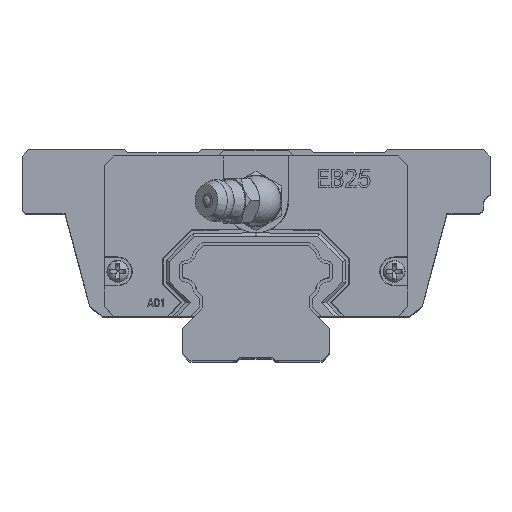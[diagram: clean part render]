
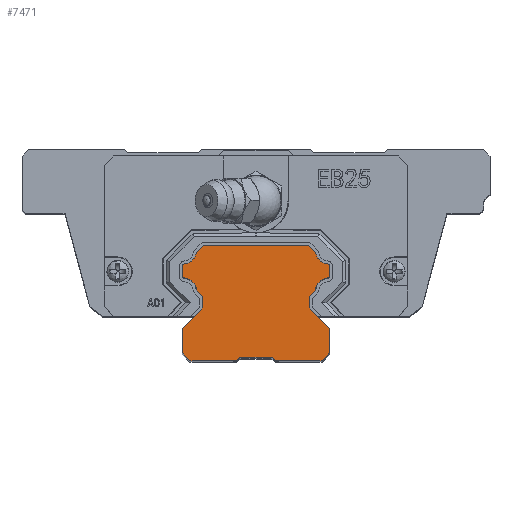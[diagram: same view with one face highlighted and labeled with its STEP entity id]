
A CAD part, top view. The second image highlights one B-rep face of the part: STEP entity #7471.
In plain terms, the highlighted planar face has unit normal (0, 0, 1).
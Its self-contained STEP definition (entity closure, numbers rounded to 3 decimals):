
#7045=CIRCLE('',#24233,2.);
#7047=CIRCLE('',#24236,0.5);
#7049=CIRCLE('',#24240,0.5);
#7051=CIRCLE('',#24243,2.);
#7059=CIRCLE('',#24255,2.);
#7061=CIRCLE('',#24258,0.5);
#7063=CIRCLE('',#24262,0.5);
#7065=CIRCLE('',#24265,2.);
#7471=ADVANCED_FACE('',(#8976),#8443,.T.);
#8443=PLANE('',#24272);
#8976=FACE_OUTER_BOUND('',#9883,.T.);
#9883=EDGE_LOOP('',(#11116,#11117,#11118,#11119,#11120,#11121,#11122,#11123,
#11124,#11125,#11126,#11127,#11128,#11129,#11130,#11131,#11132,#11133,#11134,
#11135,#11136,#11137,#11138,#11139,#11140,#11141,#11142,#11143));
#11116=ORIENTED_EDGE('',*,*,#18257,.F.);
#11117=ORIENTED_EDGE('',*,*,#18253,.F.);
#11118=ORIENTED_EDGE('',*,*,#18244,.T.);
#11119=ORIENTED_EDGE('',*,*,#18241,.F.);
#11120=ORIENTED_EDGE('',*,*,#18238,.F.);
#11121=ORIENTED_EDGE('',*,*,#18234,.F.);
#11122=ORIENTED_EDGE('',*,*,#18229,.T.);
#11123=ORIENTED_EDGE('',*,*,#18224,.F.);
#11124=ORIENTED_EDGE('',*,*,#18219,.F.);
#11125=ORIENTED_EDGE('',*,*,#18215,.F.);
#11126=ORIENTED_EDGE('',*,*,#18212,.T.);
#11127=ORIENTED_EDGE('',*,*,#18209,.F.);
#11128=ORIENTED_EDGE('',*,*,#18297,.T.);
#11129=ORIENTED_EDGE('',*,*,#18298,.F.);
#11130=ORIENTED_EDGE('',*,*,#18299,.T.);
#11131=ORIENTED_EDGE('',*,*,#18300,.F.);
#11132=ORIENTED_EDGE('',*,*,#18301,.T.);
#11133=ORIENTED_EDGE('',*,*,#18302,.F.);
#11134=ORIENTED_EDGE('',*,*,#18303,.T.);
#11135=ORIENTED_EDGE('',*,*,#18304,.F.);
#11136=ORIENTED_EDGE('',*,*,#18305,.T.);
#11137=ORIENTED_EDGE('',*,*,#18284,.F.);
#11138=ORIENTED_EDGE('',*,*,#18282,.T.);
#11139=ORIENTED_EDGE('',*,*,#18279,.F.);
#11140=ORIENTED_EDGE('',*,*,#18276,.F.);
#11141=ORIENTED_EDGE('',*,*,#18272,.F.);
#11142=ORIENTED_EDGE('',*,*,#18267,.T.);
#11143=ORIENTED_EDGE('',*,*,#18262,.F.);
#16410=VERTEX_POINT('',#29837);
#16411=VERTEX_POINT('',#29839);
#16413=VERTEX_POINT('',#29845);
#16415=VERTEX_POINT('',#29851);
#16418=VERTEX_POINT('',#29859);
#16422=VERTEX_POINT('',#29869);
#16426=VERTEX_POINT('',#29879);
#16430=VERTEX_POINT('',#29889);
#16433=VERTEX_POINT('',#29897);
#16435=VERTEX_POINT('',#29903);
#16437=VERTEX_POINT('',#29909);
#16445=VERTEX_POINT('',#29927);
#16448=VERTEX_POINT('',#29935);
#16452=VERTEX_POINT('',#29945);
#16456=VERTEX_POINT('',#29955);
#16460=VERTEX_POINT('',#29965);
#16463=VERTEX_POINT('',#29973);
#16465=VERTEX_POINT('',#29979);
#16467=VERTEX_POINT('',#29985);
#16468=VERTEX_POINT('',#29989);
#16478=VERTEX_POINT('',#30013);
#16479=VERTEX_POINT('',#30017);
#16480=VERTEX_POINT('',#30019);
#16481=VERTEX_POINT('',#30021);
#16482=VERTEX_POINT('',#30023);
#16483=VERTEX_POINT('',#30025);
#16484=VERTEX_POINT('',#30027);
#16485=VERTEX_POINT('',#30029);
#18209=EDGE_CURVE('',#16410,#16411,#20928,.T.);
#18212=EDGE_CURVE('',#16413,#16411,#20931,.T.);
#18215=EDGE_CURVE('',#16413,#16415,#20934,.T.);
#18219=EDGE_CURVE('',#16415,#16418,#7045,.T.);
#18224=EDGE_CURVE('',#16418,#16422,#7047,.T.);
#18229=EDGE_CURVE('',#16426,#16422,#20944,.T.);
#18234=EDGE_CURVE('',#16426,#16430,#7049,.T.);
#18238=EDGE_CURVE('',#16430,#16433,#7051,.T.);
#18241=EDGE_CURVE('',#16433,#16435,#20952,.T.);
#18244=EDGE_CURVE('',#16437,#16435,#20955,.T.);
#18253=EDGE_CURVE('',#16437,#16445,#20958,.T.);
#18257=EDGE_CURVE('',#16445,#16448,#7059,.T.);
#18262=EDGE_CURVE('',#16448,#16452,#7061,.T.);
#18267=EDGE_CURVE('',#16456,#16452,#20968,.T.);
#18272=EDGE_CURVE('',#16456,#16460,#7063,.T.);
#18276=EDGE_CURVE('',#16460,#16463,#7065,.T.);
#18279=EDGE_CURVE('',#16463,#16465,#20976,.T.);
#18282=EDGE_CURVE('',#16467,#16465,#20979,.T.);
#18284=EDGE_CURVE('',#16467,#16468,#20981,.T.);
#18297=EDGE_CURVE('',#16410,#16478,#20994,.T.);
#18298=EDGE_CURVE('',#16479,#16478,#20995,.T.);
#18299=EDGE_CURVE('',#16479,#16480,#20996,.T.);
#18300=EDGE_CURVE('',#16481,#16480,#20997,.T.);
#18301=EDGE_CURVE('',#16481,#16482,#20998,.T.);
#18302=EDGE_CURVE('',#16483,#16482,#20999,.T.);
#18303=EDGE_CURVE('',#16483,#16484,#21000,.T.);
#18304=EDGE_CURVE('',#16485,#16484,#21001,.T.);
#18305=EDGE_CURVE('',#16485,#16468,#21002,.T.);
#20928=LINE('',#29838,#22514);
#20931=LINE('',#29844,#22517);
#20934=LINE('',#29850,#22520);
#20944=LINE('',#29878,#22530);
#20952=LINE('',#29902,#22538);
#20955=LINE('',#29908,#22541);
#20958=LINE('',#29926,#22544);
#20968=LINE('',#29954,#22554);
#20976=LINE('',#29978,#22562);
#20979=LINE('',#29984,#22565);
#20981=LINE('',#29988,#22567);
#20994=LINE('',#30014,#22580);
#20995=LINE('',#30016,#22581);
#20996=LINE('',#30018,#22582);
#20997=LINE('',#30020,#22583);
#20998=LINE('',#30022,#22584);
#20999=LINE('',#30024,#22585);
#21000=LINE('',#30026,#22586);
#21001=LINE('',#30028,#22587);
#21002=LINE('',#30030,#22588);
#22514=VECTOR('',#25528,1.);
#22517=VECTOR('',#25533,1.);
#22520=VECTOR('',#25538,1.);
#22530=VECTOR('',#25562,1.);
#22538=VECTOR('',#25584,1.);
#22541=VECTOR('',#25589,1.);
#22544=VECTOR('',#25606,1.);
#22554=VECTOR('',#25630,1.);
#22562=VECTOR('',#25652,1.);
#22565=VECTOR('',#25657,1.);
#22567=VECTOR('',#25661,1.);
#22580=VECTOR('',#25678,1.);
#22581=VECTOR('',#25681,1.);
#22582=VECTOR('',#25682,1.);
#22583=VECTOR('',#25683,1.);
#22584=VECTOR('',#25684,1.);
#22585=VECTOR('',#25685,1.);
#22586=VECTOR('',#25686,1.);
#22587=VECTOR('',#25687,1.);
#22588=VECTOR('',#25688,1.);
#24233=AXIS2_PLACEMENT_3D('',#29858,#25545,#25546);
#24236=AXIS2_PLACEMENT_3D('',#29868,#25554,#25555);
#24240=AXIS2_PLACEMENT_3D('',#29888,#25570,#25571);
#24243=AXIS2_PLACEMENT_3D('',#29896,#25578,#25579);
#24255=AXIS2_PLACEMENT_3D('',#29934,#25613,#25614);
#24258=AXIS2_PLACEMENT_3D('',#29944,#25622,#25623);
#24262=AXIS2_PLACEMENT_3D('',#29964,#25638,#25639);
#24265=AXIS2_PLACEMENT_3D('',#29972,#25646,#25647);
#24272=AXIS2_PLACEMENT_3D('',#30031,#25689,#25690);
#25528=DIRECTION('',(0.707,0.707,0.));
#25533=DIRECTION('',(0.,-1.,0.));
#25538=DIRECTION('',(-0.707,0.707,0.));
#25545=DIRECTION('',(0.,0.,1.));
#25546=DIRECTION('',(0.998,0.07,0.));
#25554=DIRECTION('',(0.,0.,-1.));
#25555=DIRECTION('',(-0.12,-0.993,0.));
#25562=DIRECTION('',(0.,-1.,0.));
#25570=DIRECTION('',(0.,0.,-1.));
#25571=DIRECTION('',(-1.,0.,0.));
#25578=DIRECTION('',(0.,0.,1.));
#25579=DIRECTION('',(0.12,-0.993,0.));
#25584=DIRECTION('',(0.707,0.707,0.));
#25589=DIRECTION('',(-1.,0.,0.));
#25606=DIRECTION('',(0.707,-0.707,0.));
#25613=DIRECTION('',(0.,0.,1.));
#25614=DIRECTION('',(-0.993,-0.118,0.));
#25622=DIRECTION('',(0.,0.,-1.));
#25623=DIRECTION('',(0.12,0.993,0.));
#25630=DIRECTION('',(0.,1.,0.));
#25638=DIRECTION('',(0.,0.,-1.));
#25639=DIRECTION('',(1.,0.,0.));
#25646=DIRECTION('',(0.,0.,1.));
#25647=DIRECTION('',(-0.12,0.993,0.));
#25652=DIRECTION('',(-0.707,-0.707,0.));
#25657=DIRECTION('',(0.,1.,0.));
#25661=DIRECTION('',(0.707,-0.707,0.));
#25678=DIRECTION('',(0.,-1.,0.));
#25681=DIRECTION('',(-0.707,0.707,0.));
#25682=DIRECTION('',(1.,0.,0.));
#25683=DIRECTION('',(-0.707,-0.707,0.));
#25684=DIRECTION('',(1.,0.,0.));
#25685=DIRECTION('',(-0.707,0.707,0.));
#25686=DIRECTION('',(1.,0.,0.));
#25687=DIRECTION('',(-0.707,-0.707,0.));
#25688=DIRECTION('',(0.,1.,0.));
#25689=DIRECTION('',(0.,0.,1.));
#25690=DIRECTION('',(1.,0.,0.));
#29837=CARTESIAN_POINT('',(-11.5,-13.,60.));
#29838=CARTESIAN_POINT('',(-11.5,-13.,60.));
#29839=CARTESIAN_POINT('',(-8.3,-9.8,60.));
#29844=CARTESIAN_POINT('',(-8.3,-8.,60.));
#29845=CARTESIAN_POINT('',(-8.3,-8.,60.));
#29850=CARTESIAN_POINT('',(-8.3,-8.,60.));
#29851=CARTESIAN_POINT('',(-9.305,-6.995,60.));
#29858=CARTESIAN_POINT('',(-11.3,-7.136,60.));
#29859=CARTESIAN_POINT('',(-11.06,-5.15,60.));
#29868=CARTESIAN_POINT('',(-11.,-4.654,60.));
#29869=CARTESIAN_POINT('',(-11.5,-4.654,60.));
#29878=CARTESIAN_POINT('',(-11.5,-3.365,60.));
#29879=CARTESIAN_POINT('',(-11.5,-3.365,60.));
#29888=CARTESIAN_POINT('',(-11.,-3.365,60.));
#29889=CARTESIAN_POINT('',(-11.06,-2.868,60.));
#29896=CARTESIAN_POINT('',(-11.3,-0.883,60.));
#29897=CARTESIAN_POINT('',(-9.314,-1.118,60.));
#29902=CARTESIAN_POINT('',(-9.314,-1.118,60.));
#29903=CARTESIAN_POINT('',(-8.196,0.,60.));
#29908=CARTESIAN_POINT('',(8.196,0.,60.));
#29909=CARTESIAN_POINT('',(8.196,0.,60.));
#29926=CARTESIAN_POINT('',(8.196,0.,60.));
#29927=CARTESIAN_POINT('',(9.314,-1.118,60.));
#29934=CARTESIAN_POINT('',(11.3,-0.883,60.));
#29935=CARTESIAN_POINT('',(11.06,-2.868,60.));
#29944=CARTESIAN_POINT('',(11.,-3.365,60.));
#29945=CARTESIAN_POINT('',(11.5,-3.365,60.));
#29954=CARTESIAN_POINT('',(11.5,-4.654,60.));
#29955=CARTESIAN_POINT('',(11.5,-4.654,60.));
#29964=CARTESIAN_POINT('',(11.,-4.654,60.));
#29965=CARTESIAN_POINT('',(11.06,-5.15,60.));
#29972=CARTESIAN_POINT('',(11.3,-7.136,60.));
#29973=CARTESIAN_POINT('',(9.305,-6.995,60.));
#29978=CARTESIAN_POINT('',(9.305,-6.995,60.));
#29979=CARTESIAN_POINT('',(8.3,-8.,60.));
#29984=CARTESIAN_POINT('',(8.3,-9.8,60.));
#29985=CARTESIAN_POINT('',(8.3,-9.8,60.));
#29988=CARTESIAN_POINT('',(8.3,-9.8,60.));
#29989=CARTESIAN_POINT('',(11.5,-13.,60.));
#30013=CARTESIAN_POINT('',(-11.5,-16.8,60.));
#30014=CARTESIAN_POINT('',(-11.5,-13.,60.));
#30016=CARTESIAN_POINT('',(-10.3,-18.,60.));
#30017=CARTESIAN_POINT('',(-10.3,-18.,60.));
#30018=CARTESIAN_POINT('',(-10.3,-18.,60.));
#30019=CARTESIAN_POINT('',(-3.,-18.,60.));
#30020=CARTESIAN_POINT('',(-2.5,-17.5,60.));
#30021=CARTESIAN_POINT('',(-2.5,-17.5,60.));
#30022=CARTESIAN_POINT('',(-2.5,-17.5,60.));
#30023=CARTESIAN_POINT('',(2.5,-17.5,60.));
#30024=CARTESIAN_POINT('',(3.,-18.,60.));
#30025=CARTESIAN_POINT('',(3.,-18.,60.));
#30026=CARTESIAN_POINT('',(3.,-18.,60.));
#30027=CARTESIAN_POINT('',(10.3,-18.,60.));
#30028=CARTESIAN_POINT('',(11.5,-16.8,60.));
#30029=CARTESIAN_POINT('',(11.5,-16.8,60.));
#30030=CARTESIAN_POINT('',(11.5,-16.8,60.));
#30031=CARTESIAN_POINT('',(-36.5,15.,60.));
